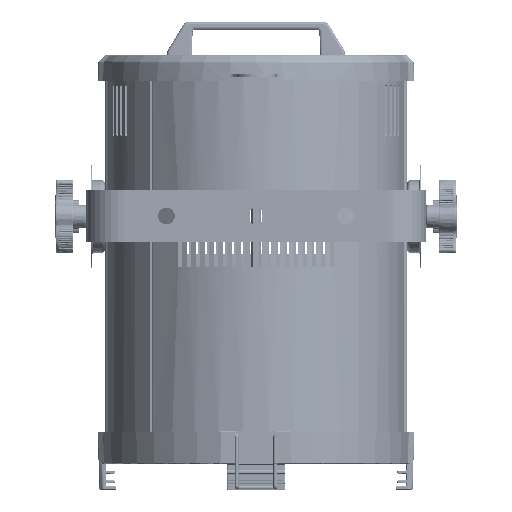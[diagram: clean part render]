
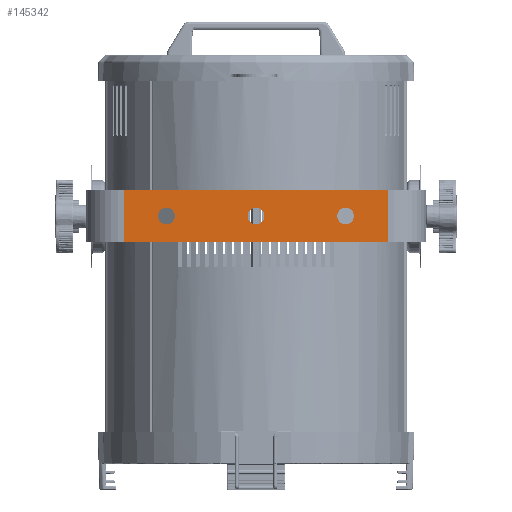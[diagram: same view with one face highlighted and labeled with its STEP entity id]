
A CAD part, top view. The second image highlights one B-rep face of the part: STEP entity #145342.
In plain terms, the highlighted planar face has unit normal (0, 0, 1).
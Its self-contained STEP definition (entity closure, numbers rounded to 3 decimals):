
#144583=DIRECTION('',(0.,1.,0.));
#144584=VECTOR('',#144583,206.);
#144585=CARTESIAN_POINT('',(20.,-103.,150.));
#144586=LINE('',#144585,#144584);
#144635=DIRECTION('',(1.,0.,0.));
#144636=VECTOR('',#144635,40.);
#144637=CARTESIAN_POINT('',(-20.,103.,150.));
#144638=LINE('',#144637,#144636);
#144642=DIRECTION('',(-1.,0.,0.));
#144643=VECTOR('',#144642,40.);
#144644=CARTESIAN_POINT('',(20.,-103.,150.));
#144645=LINE('',#144644,#144643);
#144649=DIRECTION('',(0.,1.,0.));
#144650=VECTOR('',#144649,206.);
#144651=CARTESIAN_POINT('',(-20.,-103.,150.));
#144652=LINE('',#144651,#144650);
#144656=CARTESIAN_POINT('',(0.,0.,150.));
#144657=DIRECTION('',(0.,0.,-1.));
#144658=DIRECTION('',(0.,-1.,0.));
#144659=AXIS2_PLACEMENT_3D('',#144656,#144657,#144658);
#144664=CARTESIAN_POINT('',(0.,0.,150.));
#144665=DIRECTION('',(0.,0.,-1.));
#144666=DIRECTION('',(0.,1.,0.));
#144667=AXIS2_PLACEMENT_3D('',#144664,#144665,#144666);
#144672=CARTESIAN_POINT('',(0.,-70.,150.));
#144673=DIRECTION('',(0.,0.,-1.));
#144674=DIRECTION('',(0.,-1.,0.));
#144675=AXIS2_PLACEMENT_3D('',#144672,#144673,#144674);
#144680=CARTESIAN_POINT('',(0.,-70.,150.));
#144681=DIRECTION('',(0.,0.,-1.));
#144682=DIRECTION('',(0.,1.,0.));
#144683=AXIS2_PLACEMENT_3D('',#144680,#144681,#144682);
#144688=CARTESIAN_POINT('',(0.,70.,150.));
#144689=DIRECTION('',(0.,0.,-1.));
#144690=DIRECTION('',(0.,-1.,0.));
#144691=AXIS2_PLACEMENT_3D('',#144688,#144689,#144690);
#144696=CARTESIAN_POINT('',(0.,70.,150.));
#144697=DIRECTION('',(0.,0.,-1.));
#144698=DIRECTION('',(0.,1.,0.));
#144699=AXIS2_PLACEMENT_3D('',#144696,#144697,#144698);
#145017=CARTESIAN_POINT('',(20.,103.,150.));
#145019=VERTEX_POINT('',#145017);
#145020=CARTESIAN_POINT('',(-20.,103.,150.));
#145021=VERTEX_POINT('',#145020);
#145025=CARTESIAN_POINT('',(-20.,-103.,150.));
#145027=VERTEX_POINT('',#145025);
#145028=CARTESIAN_POINT('',(20.,-103.,150.));
#145029=VERTEX_POINT('',#145028);
#145112=CARTESIAN_POINT('',(0.,-6.5,150.));
#145113=CARTESIAN_POINT('',(0.,6.5,150.));
#145114=VERTEX_POINT('',#145112);
#145115=VERTEX_POINT('',#145113);
#145116=CARTESIAN_POINT('',(0.,-76.5,150.));
#145117=CARTESIAN_POINT('',(0.,-63.5,150.));
#145118=VERTEX_POINT('',#145116);
#145119=VERTEX_POINT('',#145117);
#145120=CARTESIAN_POINT('',(0.,63.5,150.));
#145121=CARTESIAN_POINT('',(0.,76.5,150.));
#145122=VERTEX_POINT('',#145120);
#145123=VERTEX_POINT('',#145121);
#145312=CARTESIAN_POINT('',(-20.,-133.,150.));
#145313=DIRECTION('',(0.,0.,1.));
#145314=DIRECTION('',(1.,0.,0.));
#145315=AXIS2_PLACEMENT_3D('',#145312,#145313,#145314);
#145316=PLANE('',#145315);
#145318=ORIENTED_EDGE('',*,*,#145317,.T.);
#145319=ORIENTED_EDGE('',*,*,#145282,.F.);
#145320=ORIENTED_EDGE('',*,*,#145305,.T.);
#145321=ORIENTED_EDGE('',*,*,#145249,.T.);
#145322=EDGE_LOOP('',(#145318,#145319,#145320,#145321));
#145323=FACE_OUTER_BOUND('',#145322,.F.);
#145325=ORIENTED_EDGE('',*,*,#145324,.F.);
#145327=ORIENTED_EDGE('',*,*,#145326,.F.);
#145328=EDGE_LOOP('',(#145325,#145327));
#145329=FACE_BOUND('',#145328,.F.);
#145331=ORIENTED_EDGE('',*,*,#145330,.F.);
#145333=ORIENTED_EDGE('',*,*,#145332,.F.);
#145334=EDGE_LOOP('',(#145331,#145333));
#145335=FACE_BOUND('',#145334,.F.);
#145337=ORIENTED_EDGE('',*,*,#145336,.F.);
#145339=ORIENTED_EDGE('',*,*,#145338,.F.);
#145340=EDGE_LOOP('',(#145337,#145339));
#145341=FACE_BOUND('',#145340,.F.);
#144660=CIRCLE('',#144659,6.5);
#144668=CIRCLE('',#144667,6.5);
#144676=CIRCLE('',#144675,6.5);
#144684=CIRCLE('',#144683,6.5);
#144692=CIRCLE('',#144691,6.5);
#144700=CIRCLE('',#144699,6.5);
#145249=EDGE_CURVE('',#145027,#145021,#144652,.T.);
#145282=EDGE_CURVE('',#145029,#145019,#144586,.T.);
#145305=EDGE_CURVE('',#145029,#145027,#144645,.T.);
#145317=EDGE_CURVE('',#145021,#145019,#144638,.T.);
#145324=EDGE_CURVE('',#145114,#145115,#144660,.T.);
#145326=EDGE_CURVE('',#145115,#145114,#144668,.T.);
#145330=EDGE_CURVE('',#145118,#145119,#144676,.T.);
#145332=EDGE_CURVE('',#145119,#145118,#144684,.T.);
#145336=EDGE_CURVE('',#145122,#145123,#144692,.T.);
#145338=EDGE_CURVE('',#145123,#145122,#144700,.T.);
#145342=ADVANCED_FACE('',(#145323,#145329,#145335,#145341),#145316,.T.);
